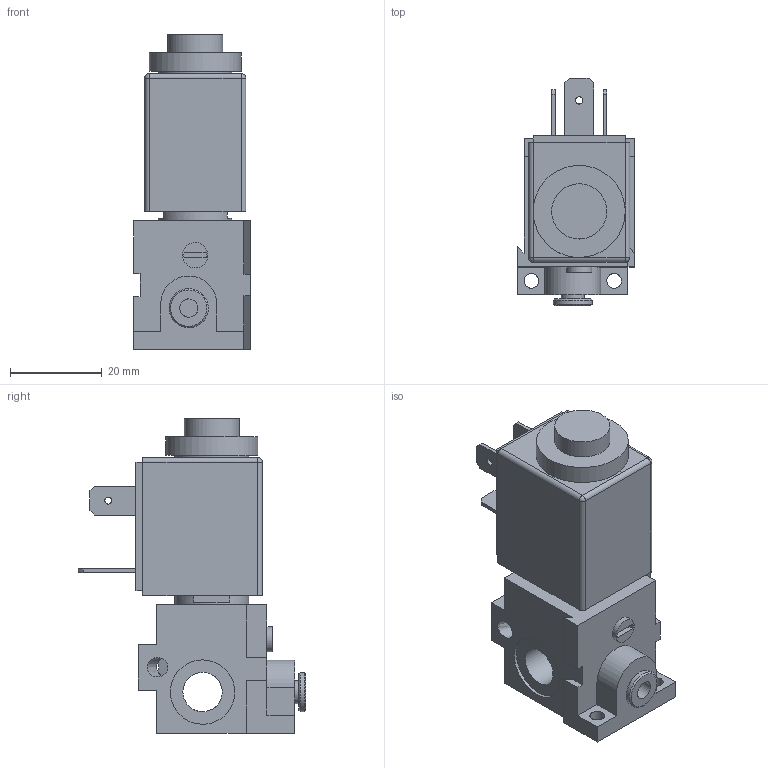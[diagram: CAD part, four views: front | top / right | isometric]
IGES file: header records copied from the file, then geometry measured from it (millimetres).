
Global section: file name: 345_M5-B; native system: Autodesk Inventor 2014; preprocessor: unknown; author: A. Manieri; date: 20161004.161407; units: millimetre
Bounding box: 25.4 x 49.4 x 68.5 mm (x, y, z)
Volume: 34607.7 mm3; surface area: 13453.1 mm2
Topology: 2 solids, 2 shells, 131 faces, 353 edges, 243 vertices
Faces by surface type: bspline 131
